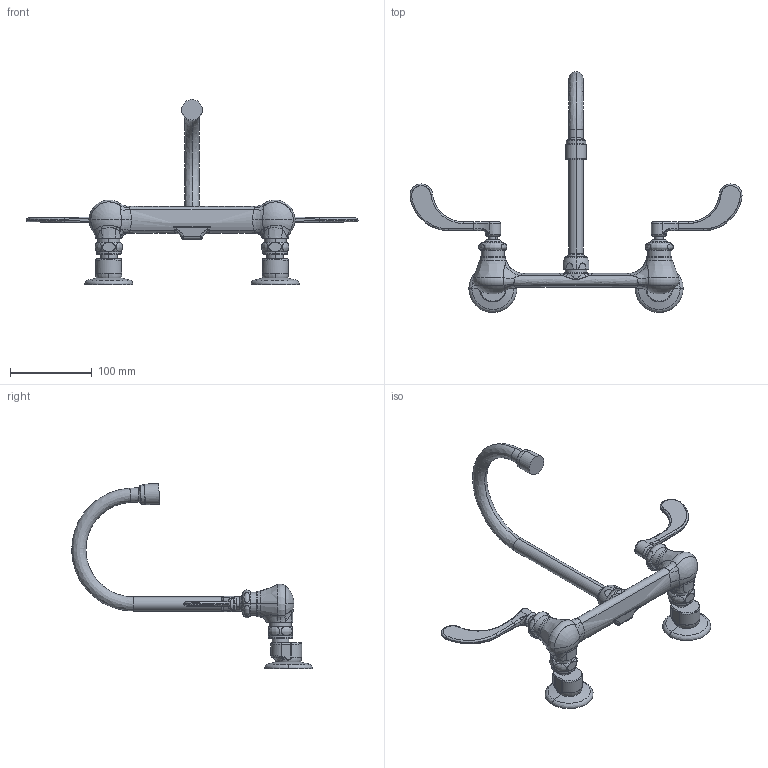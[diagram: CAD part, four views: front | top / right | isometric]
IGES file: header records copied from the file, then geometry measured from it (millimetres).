
Start section:  PTC IGES file: 631-GN2AE3VPCP_REV100511.igs
Global section: file name: 631-GN2AE3VPCP_REV100511.igs; native system: Pro/ENGINEER by Parametric Technology Corporation; preprocessor: 2010230; author: sdmitruk; organization: Unknown; date: 20111005.122251; units: inch
Bounding box: 407.16 x 295.09 x 227.04 mm (x, y, z)
Surface area: 107335 mm2 (no closed solid volume)
Topology: 0 solids, 0 shells, 433 faces, 2916 edges, 3819 vertices
Faces by surface type: bspline 248, revolution 185
